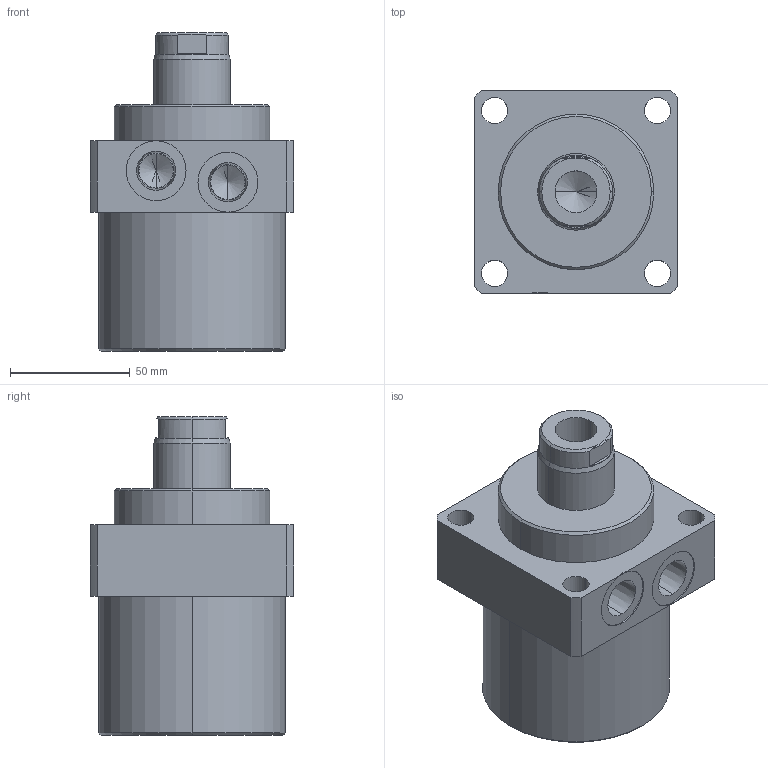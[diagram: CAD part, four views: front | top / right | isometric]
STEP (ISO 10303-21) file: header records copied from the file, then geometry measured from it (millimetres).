
FILE_DESCRIPTION (( 'STEP AP203' ), '1' );
FILE_NAME ('4311 611 621.STEP', '2016-01-28T12:15:40', ( '' ), ( '' ), 'SwSTEP 2.0', 'SolidWorks 2015', '' );
FILE_SCHEMA (( 'CONFIG_CONTROL_DESIGN' ));
Length unit declared in the file: millimetre
Products named in the file (1): 4311 611 621
Bounding box: 85 x 85 x 133 mm (x, y, z)
Volume: 534392.5 mm3; surface area: 52421.9 mm2
Topology: 1 solids, 1 shells, 67 faces, 158 edges, 97 vertices
Faces by surface type: cylinder 30, plane 19, cone 18
Entity records: 1999 total; most frequent: DIRECTION 364, CARTESIAN_POINT 329, ORIENTED_EDGE 304, EDGE_CURVE 152, AXIS2_PLACEMENT_3D 148, VERTEX_POINT 97, EDGE_LOOP 85, CIRCLE 80
